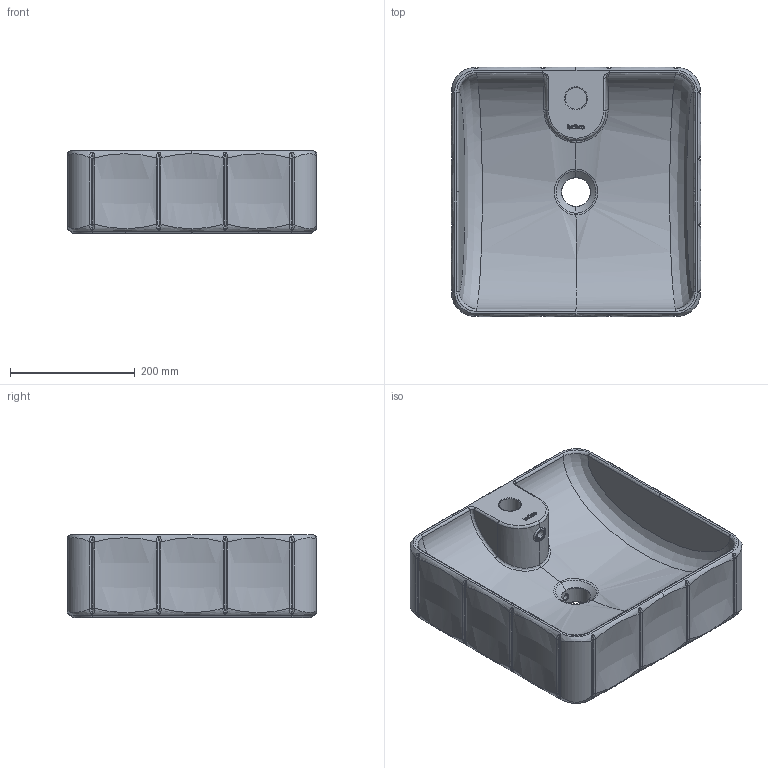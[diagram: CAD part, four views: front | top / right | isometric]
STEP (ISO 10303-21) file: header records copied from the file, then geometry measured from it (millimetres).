
FILE_DESCRIPTION(/* description */ (''),/* implementation_level */ '2;1');
FILE_NAME(/* name */ '4162_C~1',/* time_stamp */ '2022-06-18T12:24:36+02:00',/* author */ (''),/* organization */ (''),/* preprocessor_version */ 'ST-DEVELOPER v16.5',/* originating_system */ '',/* authorisation */ '');
FILE_SCHEMA (('CONFIG_CONTROL_DESIGN'));
Length unit declared in the file: millimetre
Products named in the file (1): Document
Bounding box: 400 x 400 x 133.25 mm (x, y, z)
Volume: 5082566.9 mm3; surface area: 717137 mm2
Topology: 8 solids, 8 shells, 460 faces, 1155 edges, 707 vertices
Faces by surface type: bspline 336, plane 72, cylinder 52
Full cylindrical faces by diameter (mm): 19 x1, 35 x1
Entity records: 82749 total; most frequent: CARTESIAN_POINT 76123, ORIENTED_EDGE 2310, EDGE_CURVE 1155, VERTEX_POINT 707, B_SPLINE_CURVE_WITH_KNOTS 522, EDGE_LOOP 468, ADVANCED_FACE 460, FACE_OUTER_BOUND 460
